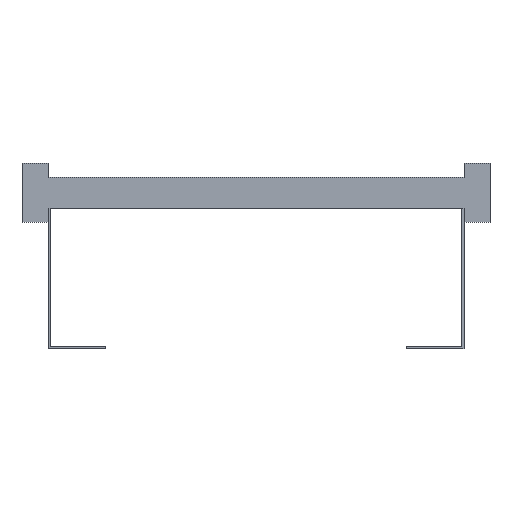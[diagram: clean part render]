
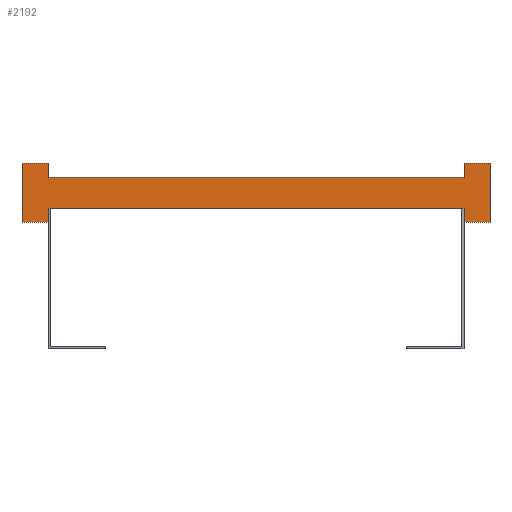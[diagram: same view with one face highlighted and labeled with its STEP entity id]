
A CAD part, front view. The second image highlights one B-rep face of the part: STEP entity #2192.
In plain terms, the highlighted planar face has unit normal (0, -1, 0).
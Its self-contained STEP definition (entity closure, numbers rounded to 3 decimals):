
#745=DIRECTION('',(0.,0.,1.));
#746=VECTOR('',#745,13.5);
#747=CARTESIAN_POINT('',(200.,0.,-28.5));
#748=LINE('',#747,#746);
#749=DIRECTION('',(0.,0.,-1.));
#750=VECTOR('',#749,13.5);
#751=CARTESIAN_POINT('',(-200.,0.,-15.));
#752=LINE('',#751,#750);
#753=DIRECTION('',(-1.,0.,0.));
#754=VECTOR('',#753,25.);
#755=CARTESIAN_POINT('',(-200.,0.,-28.5));
#756=LINE('',#755,#754);
#757=DIRECTION('',(0.,0.,1.));
#758=VECTOR('',#757,57.);
#759=CARTESIAN_POINT('',(-225.,0.,-28.5));
#760=LINE('',#759,#758);
#761=DIRECTION('',(1.,0.,0.));
#762=VECTOR('',#761,25.);
#763=CARTESIAN_POINT('',(-225.,0.,28.5));
#764=LINE('',#763,#762);
#765=DIRECTION('',(0.,0.,-1.));
#766=VECTOR('',#765,13.5);
#767=CARTESIAN_POINT('',(-200.,0.,28.5));
#768=LINE('',#767,#766);
#769=DIRECTION('',(0.,0.,1.));
#770=VECTOR('',#769,13.5);
#771=CARTESIAN_POINT('',(200.,0.,15.));
#772=LINE('',#771,#770);
#773=DIRECTION('',(1.,0.,0.));
#774=VECTOR('',#773,25.);
#775=CARTESIAN_POINT('',(200.,0.,28.5));
#776=LINE('',#775,#774);
#777=DIRECTION('',(0.,0.,-1.));
#778=VECTOR('',#777,57.);
#779=CARTESIAN_POINT('',(225.,0.,28.5));
#780=LINE('',#779,#778);
#781=DIRECTION('',(-1.,0.,0.));
#782=VECTOR('',#781,25.);
#783=CARTESIAN_POINT('',(225.,0.,-28.5));
#784=LINE('',#783,#782);
#785=DIRECTION('',(1.,0.,0.));
#786=VECTOR('',#785,400.);
#787=CARTESIAN_POINT('',(-200.,0.,-15.));
#788=LINE('',#787,#786);
#797=DIRECTION('',(1.,0.,0.));
#798=VECTOR('',#797,400.);
#799=CARTESIAN_POINT('',(-200.,0.,15.));
#800=LINE('',#799,#798);
#1025=CARTESIAN_POINT('',(-225.,0.,28.5));
#1026=CARTESIAN_POINT('',(-200.,0.,28.5));
#1027=VERTEX_POINT('',#1025);
#1028=VERTEX_POINT('',#1026);
#1029=CARTESIAN_POINT('',(-200.,0.,-28.5));
#1030=CARTESIAN_POINT('',(-225.,0.,-28.5));
#1031=VERTEX_POINT('',#1029);
#1032=VERTEX_POINT('',#1030);
#1033=CARTESIAN_POINT('',(225.,0.,28.5));
#1034=CARTESIAN_POINT('',(225.,0.,-28.5));
#1035=VERTEX_POINT('',#1033);
#1036=VERTEX_POINT('',#1034);
#1037=CARTESIAN_POINT('',(200.,0.,-28.5));
#1038=VERTEX_POINT('',#1037);
#1039=CARTESIAN_POINT('',(200.,0.,28.5));
#1040=VERTEX_POINT('',#1039);
#1041=CARTESIAN_POINT('',(-200.,0.,-15.));
#1043=VERTEX_POINT('',#1041);
#1045=CARTESIAN_POINT('',(-200.,0.,15.));
#1047=VERTEX_POINT('',#1045);
#1049=CARTESIAN_POINT('',(200.,0.,-15.));
#1051=VERTEX_POINT('',#1049);
#1053=CARTESIAN_POINT('',(200.,0.,15.));
#1055=VERTEX_POINT('',#1053);
#2167=CARTESIAN_POINT('',(0.,0.,0.));
#2168=DIRECTION('',(0.,1.,0.));
#2169=DIRECTION('',(1.,0.,0.));
#2170=AXIS2_PLACEMENT_3D('',#2167,#2168,#2169);
#2171=PLANE('',#2170);
#2172=ORIENTED_EDGE('',*,*,#1400,.T.);
#2174=ORIENTED_EDGE('',*,*,#2173,.F.);
#2175=ORIENTED_EDGE('',*,*,#1546,.T.);
#2176=ORIENTED_EDGE('',*,*,#2114,.T.);
#2178=ORIENTED_EDGE('',*,*,#2177,.T.);
#2179=ORIENTED_EDGE('',*,*,#2160,.T.);
#2180=ORIENTED_EDGE('',*,*,#1554,.T.);
#2182=ORIENTED_EDGE('',*,*,#2181,.T.);
#2183=ORIENTED_EDGE('',*,*,#1392,.T.);
#2185=ORIENTED_EDGE('',*,*,#2184,.T.);
#2187=ORIENTED_EDGE('',*,*,#2186,.T.);
#2189=ORIENTED_EDGE('',*,*,#2188,.T.);
#2190=EDGE_LOOP('',(#2172,#2174,#2175,#2176,#2178,#2179,#2180,#2182,#2183,#2185,
#2187,#2189));
#2191=FACE_OUTER_BOUND('',#2190,.F.);
#1392=EDGE_CURVE('',#1055,#1040,#772,.T.);
#1400=EDGE_CURVE('',#1038,#1051,#748,.T.);
#1546=EDGE_CURVE('',#1043,#1031,#752,.T.);
#1554=EDGE_CURVE('',#1028,#1047,#768,.T.);
#2114=EDGE_CURVE('',#1031,#1032,#756,.T.);
#2160=EDGE_CURVE('',#1027,#1028,#764,.T.);
#2173=EDGE_CURVE('',#1043,#1051,#788,.T.);
#2177=EDGE_CURVE('',#1032,#1027,#760,.T.);
#2181=EDGE_CURVE('',#1047,#1055,#800,.T.);
#2184=EDGE_CURVE('',#1040,#1035,#776,.T.);
#2186=EDGE_CURVE('',#1035,#1036,#780,.T.);
#2188=EDGE_CURVE('',#1036,#1038,#784,.T.);
#2192=ADVANCED_FACE('',(#2191),#2171,.F.);
